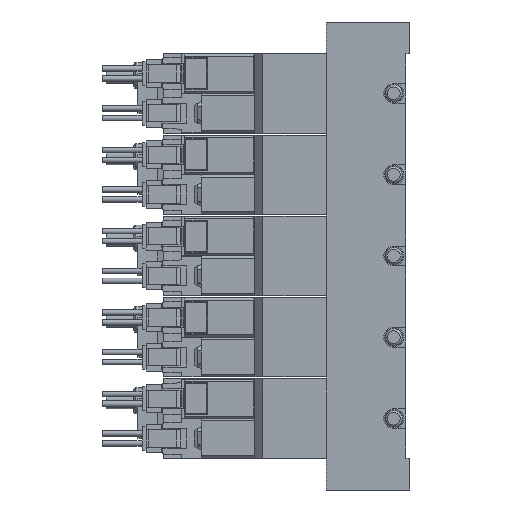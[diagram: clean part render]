
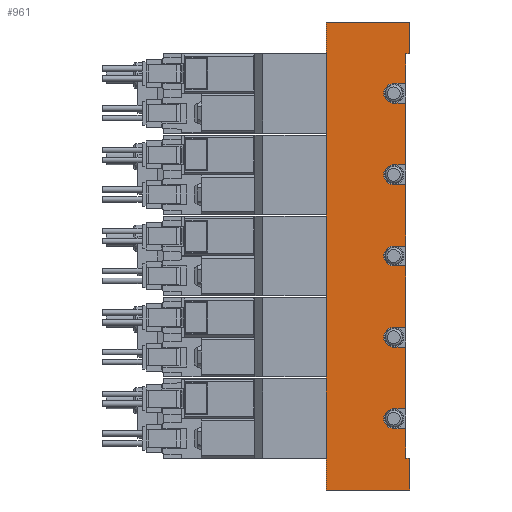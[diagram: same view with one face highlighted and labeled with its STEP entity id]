
A CAD part, left-side view. The second image highlights one B-rep face of the part: STEP entity #961.
In plain terms, the highlighted planar face has unit normal (-1, 0, 0) as drawn and (1, 0, 0) by its records, which use the part's own axes.
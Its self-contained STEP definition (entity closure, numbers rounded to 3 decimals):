
#961=ADVANCED_FACE('',(#2094),#2095,.F.);
#2094=FACE_OUTER_BOUND('',#3241,.T.);
#2095=PLANE('',#3242);
#3241=EDGE_LOOP('',(#7072,#7073,#7074,#7075,#7076,#7077,#7078,#7079,#7080,#7081,#7082,#7083,#7084,#7085,#7086,#7087,#7088,#7089,#7090,#7091,#7092,#7093,#7094,#7095,#7096,#7097,#7098,#7099));
#3242=AXIS2_PLACEMENT_3D('',#7100,#7101,#7102);
#7072=ORIENTED_EDGE('',*,*,#8388,.T.);
#7073=ORIENTED_EDGE('',*,*,#8345,.T.);
#7074=ORIENTED_EDGE('',*,*,#8265,.F.);
#7075=ORIENTED_EDGE('',*,*,#8392,.F.);
#7076=ORIENTED_EDGE('',*,*,#8355,.T.);
#7077=ORIENTED_EDGE('',*,*,#8377,.T.);
#7078=ORIENTED_EDGE('',*,*,#8393,.T.);
#7079=ORIENTED_EDGE('',*,*,#8225,.F.);
#7080=ORIENTED_EDGE('',*,*,#8333,.F.);
#7081=ORIENTED_EDGE('',*,*,#8251,.F.);
#7082=ORIENTED_EDGE('',*,*,#8394,.T.);
#7083=ORIENTED_EDGE('',*,*,#8218,.F.);
#7084=ORIENTED_EDGE('',*,*,#8363,.F.);
#7085=ORIENTED_EDGE('',*,*,#8365,.F.);
#7086=ORIENTED_EDGE('',*,*,#8395,.T.);
#7087=ORIENTED_EDGE('',*,*,#8396,.F.);
#7088=ORIENTED_EDGE('',*,*,#8320,.F.);
#7089=ORIENTED_EDGE('',*,*,#8397,.F.);
#7090=ORIENTED_EDGE('',*,*,#8398,.T.);
#7091=ORIENTED_EDGE('',*,*,#8277,.F.);
#7092=ORIENTED_EDGE('',*,*,#8399,.F.);
#7093=ORIENTED_EDGE('',*,*,#8282,.F.);
#7094=ORIENTED_EDGE('',*,*,#8400,.T.);
#7095=ORIENTED_EDGE('',*,*,#8272,.F.);
#7096=ORIENTED_EDGE('',*,*,#8354,.F.);
#7097=ORIENTED_EDGE('',*,*,#8243,.F.);
#7098=ORIENTED_EDGE('',*,*,#8401,.T.);
#7099=ORIENTED_EDGE('',*,*,#8384,.T.);
#7100=CARTESIAN_POINT('',(17.5,1.0,59.0));
#7101=DIRECTION('',(-1.0,0.0,0.0));
#7102=DIRECTION('',(0.0,0.0,1.0));
#8218=EDGE_CURVE('',#10123,#10124,#10125,.T.);
#8225=EDGE_CURVE('',#10137,#10138,#10139,.T.);
#8243=EDGE_CURVE('',#10171,#10172,#10173,.T.);
#8251=EDGE_CURVE('',#10187,#10188,#10189,.T.);
#8265=EDGE_CURVE('',#10214,#10209,#10216,.T.);
#8272=EDGE_CURVE('',#10229,#10230,#10231,.T.);
#8277=EDGE_CURVE('',#10239,#10240,#10241,.T.);
#8282=EDGE_CURVE('',#10249,#10250,#10251,.T.);
#8320=EDGE_CURVE('',#10316,#10318,#10319,.T.);
#8333=EDGE_CURVE('',#10188,#10137,#10338,.T.);
#8345=EDGE_CURVE('',#10358,#10209,#10359,.T.);
#8354=EDGE_CURVE('',#10172,#10229,#10374,.T.);
#8355=EDGE_CURVE('',#10375,#10376,#10377,.T.);
#8363=EDGE_CURVE('',#10388,#10123,#10390,.T.);
#8365=EDGE_CURVE('',#10393,#10388,#10394,.T.);
#8377=EDGE_CURVE('',#10376,#10412,#10414,.T.);
#8384=EDGE_CURVE('',#10420,#10423,#10425,.T.);
#8388=EDGE_CURVE('',#10423,#10358,#10429,.T.);
#8392=EDGE_CURVE('',#10375,#10214,#10432,.T.);
#8393=EDGE_CURVE('',#10412,#10138,#10433,.T.);
#8394=EDGE_CURVE('',#10187,#10124,#10434,.T.);
#8395=EDGE_CURVE('',#10393,#10435,#10436,.T.);
#8396=EDGE_CURVE('',#10318,#10435,#10437,.T.);
#8397=EDGE_CURVE('',#10438,#10316,#10439,.T.);
#8398=EDGE_CURVE('',#10438,#10240,#10440,.T.);
#8399=EDGE_CURVE('',#10250,#10239,#10441,.T.);
#8400=EDGE_CURVE('',#10249,#10230,#10442,.T.);
#8401=EDGE_CURVE('',#10171,#10420,#10443,.T.);
#10123=VERTEX_POINT('',#13255);
#10124=VERTEX_POINT('',#13256);
#10125=LINE('',#13257,#13258);
#10137=VERTEX_POINT('',#13274);
#10138=VERTEX_POINT('',#13275);
#10139=LINE('',#13276,#13277);
#10171=VERTEX_POINT('',#13489);
#10172=VERTEX_POINT('',#13490);
#10173=LINE('',#13491,#13492);
#10187=VERTEX_POINT('',#13510);
#10188=VERTEX_POINT('',#13511);
#10189=LINE('',#13512,#13513);
#10209=VERTEX_POINT('',#13541);
#10214=VERTEX_POINT('',#13548);
#10216=LINE('',#13551,#13552);
#10229=VERTEX_POINT('',#13565);
#10230=VERTEX_POINT('',#13566);
#10231=LINE('',#13567,#13568);
#10239=VERTEX_POINT('',#13580);
#10240=VERTEX_POINT('',#13581);
#10241=LINE('',#13582,#13583);
#10249=VERTEX_POINT('',#13595);
#10250=VERTEX_POINT('',#13596);
#10251=LINE('',#13597,#13598);
#10316=VERTEX_POINT('',#13679);
#10318=VERTEX_POINT('',#13682);
#10319=CIRCLE('',#13683,2.5);
#10338=CIRCLE('',#13705,2.5);
#10358=VERTEX_POINT('',#13727);
#10359=LINE('',#13728,#13729);
#10374=CIRCLE('',#13747,2.5);
#10375=VERTEX_POINT('',#13748);
#10376=VERTEX_POINT('',#13749);
#10377=LINE('',#13750,#13751);
#10388=VERTEX_POINT('',#13764);
#10390=CIRCLE('',#13767,2.5);
#10393=VERTEX_POINT('',#13770);
#10394=LINE('',#13771,#13772);
#10412=VERTEX_POINT('',#13794);
#10414=LINE('',#13797,#13798);
#10420=VERTEX_POINT('',#13807);
#10423=VERTEX_POINT('',#13812);
#10425=LINE('',#13815,#13816);
#10429=LINE('',#13821,#13822);
#10432=LINE('',#13825,#13826);
#10433=LINE('',#13827,#13828);
#10434=LINE('',#13829,#13830);
#10435=VERTEX_POINT('',#13831);
#10436=LINE('',#13832,#13833);
#10437=LINE('',#13834,#13835);
#10438=VERTEX_POINT('',#13836);
#10439=LINE('',#13837,#13838);
#10440=LINE('',#13839,#13840);
#10441=CIRCLE('',#13841,2.5);
#10442=LINE('',#13842,#13843);
#10443=LINE('',#13844,#13845);
#13255=CARTESIAN_POINT('',(17.5,4.0,23.0));
#13256=CARTESIAN_POINT('',(17.5,1.0,23.0));
#13257=CARTESIAN_POINT('',(17.5,1.0,23.0));
#13258=VECTOR('',#15116,1.0);
#13274=CARTESIAN_POINT('',(17.5,4.0,43.5));
#13275=CARTESIAN_POINT('',(17.5,1.0,43.5));
#13276=CARTESIAN_POINT('',(17.5,1.0,43.5));
#13277=VECTOR('',#15127,1.0);
#13489=CARTESIAN_POINT('',(17.5,1.0,-43.5));
#13490=CARTESIAN_POINT('',(17.5,4.0,-43.5));
#13491=CARTESIAN_POINT('',(17.5,1.0,-43.5));
#13492=VECTOR('',#15156,1.0);
#13510=CARTESIAN_POINT('',(17.5,1.0,38.5));
#13511=CARTESIAN_POINT('',(17.5,4.0,38.5));
#13512=CARTESIAN_POINT('',(17.5,1.0,38.5));
#13513=VECTOR('',#15170,1.0);
#13541=CARTESIAN_POINT('',(17.5,21.0,-59.0));
#13548=CARTESIAN_POINT('',(17.5,21.0,59.0));
#13551=CARTESIAN_POINT('',(17.5,21.0,59.0));
#13552=VECTOR('',#15188,1.0);
#13565=CARTESIAN_POINT('',(17.5,4.0,-38.5));
#13566=CARTESIAN_POINT('',(17.5,1.0,-38.5));
#13567=CARTESIAN_POINT('',(17.5,1.0,-38.5));
#13568=VECTOR('',#15207,1.0);
#13580=CARTESIAN_POINT('',(17.5,4.0,-18.0));
#13581=CARTESIAN_POINT('',(17.5,1.0,-18.0));
#13582=CARTESIAN_POINT('',(17.5,1.0,-18.0));
#13583=VECTOR('',#15212,1.0);
#13595=CARTESIAN_POINT('',(17.5,1.0,-23.0));
#13596=CARTESIAN_POINT('',(17.5,4.0,-23.0));
#13597=CARTESIAN_POINT('',(17.5,1.0,-23.0));
#13598=VECTOR('',#15217,1.0);
#13679=CARTESIAN_POINT('',(17.5,4.0,-2.5));
#13682=CARTESIAN_POINT('',(17.5,4.0,2.5));
#13683=AXIS2_PLACEMENT_3D('',#15295,#15296,#15297);
#13705=AXIS2_PLACEMENT_3D('',#15325,#15326,#15327);
#13727=CARTESIAN_POINT('',(17.5,0.0,-59.0));
#13728=CARTESIAN_POINT('',(17.5,1.0,-59.0));
#13729=VECTOR('',#15357,1.0);
#13747=AXIS2_PLACEMENT_3D('',#15376,#15377,#15378);
#13748=CARTESIAN_POINT('',(17.5,0.0,59.0));
#13749=CARTESIAN_POINT('',(17.5,0.0,51.0));
#13750=CARTESIAN_POINT('',(17.5,0.0,59.0));
#13751=VECTOR('',#15379,1.0);
#13764=CARTESIAN_POINT('',(17.5,4.0,18.0));
#13767=AXIS2_PLACEMENT_3D('',#15395,#15396,#15397);
#13770=CARTESIAN_POINT('',(17.5,1.0,18.0));
#13771=CARTESIAN_POINT('',(17.5,1.0,18.0));
#13772=VECTOR('',#15401,1.0);
#13794=CARTESIAN_POINT('',(17.5,1.0,51.0));
#13797=CARTESIAN_POINT('',(17.5,0.0,51.0));
#13798=VECTOR('',#15425,1.0);
#13807=CARTESIAN_POINT('',(17.5,1.0,-51.0));
#13812=CARTESIAN_POINT('',(17.5,0.0,-51.0));
#13815=CARTESIAN_POINT('',(17.5,4.0,-51.0));
#13816=VECTOR('',#15432,1.0);
#13821=CARTESIAN_POINT('',(17.5,0.0,-51.0));
#13822=VECTOR('',#15440,1.0);
#13825=CARTESIAN_POINT('',(17.5,1.0,59.0));
#13826=VECTOR('',#15444,1.0);
#13827=CARTESIAN_POINT('',(17.5,1.0,59.0));
#13828=VECTOR('',#15445,1.0);
#13829=CARTESIAN_POINT('',(17.5,1.0,59.0));
#13830=VECTOR('',#15446,1.0);
#13831=CARTESIAN_POINT('',(17.5,1.0,2.5));
#13832=CARTESIAN_POINT('',(17.5,1.0,59.0));
#13833=VECTOR('',#15447,1.0);
#13834=CARTESIAN_POINT('',(17.5,1.0,2.5));
#13835=VECTOR('',#15448,1.0);
#13836=CARTESIAN_POINT('',(17.5,1.0,-2.5));
#13837=CARTESIAN_POINT('',(17.5,1.0,-2.5));
#13838=VECTOR('',#15449,1.0);
#13839=CARTESIAN_POINT('',(17.5,1.0,59.0));
#13840=VECTOR('',#15450,1.0);
#13841=AXIS2_PLACEMENT_3D('',#15451,#15452,#15453);
#13842=CARTESIAN_POINT('',(17.5,1.0,59.0));
#13843=VECTOR('',#15454,1.0);
#13844=CARTESIAN_POINT('',(17.5,1.0,59.0));
#13845=VECTOR('',#15455,1.0);
#15116=DIRECTION('',(0.0,-1.0,0.0));
#15127=DIRECTION('',(0.0,-1.0,0.0));
#15156=DIRECTION('',(0.0,1.0,0.0));
#15170=DIRECTION('',(0.0,1.0,0.0));
#15188=DIRECTION('',(0.0,0.0,-1.0));
#15207=DIRECTION('',(0.0,-1.0,0.0));
#15212=DIRECTION('',(0.0,-1.0,0.0));
#15217=DIRECTION('',(0.0,1.0,0.0));
#15295=CARTESIAN_POINT('',(17.5,4.0,0.0));
#15296=DIRECTION('',(1.0,0.0,-0.0));
#15297=DIRECTION('',(0.0,0.0,1.0));
#15325=CARTESIAN_POINT('',(17.5,4.0,41.0));
#15326=DIRECTION('',(1.0,0.0,-0.0));
#15327=DIRECTION('',(0.0,0.0,1.0));
#15357=DIRECTION('',(0.0,1.0,0.0));
#15376=CARTESIAN_POINT('',(17.5,4.0,-41.0));
#15377=DIRECTION('',(1.0,0.0,-0.0));
#15378=DIRECTION('',(0.0,0.0,1.0));
#15379=DIRECTION('',(0.0,0.0,-1.0));
#15395=CARTESIAN_POINT('',(17.5,4.0,20.5));
#15396=DIRECTION('',(1.0,0.0,-0.0));
#15397=DIRECTION('',(0.0,0.0,1.0));
#15401=DIRECTION('',(0.0,1.0,0.0));
#15425=DIRECTION('',(0.0,1.0,0.0));
#15432=DIRECTION('',(0.0,-1.0,0.0));
#15440=DIRECTION('',(0.0,0.0,-1.0));
#15444=DIRECTION('',(0.0,1.0,0.0));
#15445=DIRECTION('',(0.0,0.0,-1.0));
#15446=DIRECTION('',(0.0,0.0,-1.0));
#15447=DIRECTION('',(0.0,0.0,-1.0));
#15448=DIRECTION('',(0.0,-1.0,0.0));
#15449=DIRECTION('',(0.0,1.0,0.0));
#15450=DIRECTION('',(0.0,0.0,-1.0));
#15451=CARTESIAN_POINT('',(17.5,4.0,-20.5));
#15452=DIRECTION('',(1.0,0.0,-0.0));
#15453=DIRECTION('',(0.0,0.0,1.0));
#15454=DIRECTION('',(0.0,0.0,-1.0));
#15455=DIRECTION('',(0.0,0.0,-1.0));
